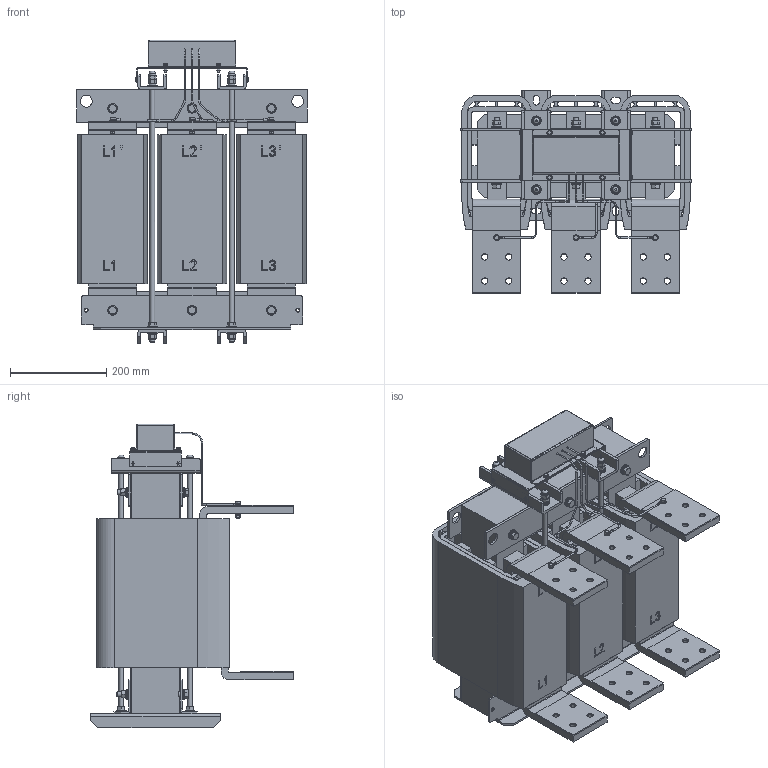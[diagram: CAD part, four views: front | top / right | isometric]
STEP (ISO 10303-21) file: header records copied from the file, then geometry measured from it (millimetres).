
FILE_DESCRIPTION(('STEP AP203'), '1');
FILE_NAME('IDUDT-1200_2300-4 _ dU_dt ôèëüòð 1200 êÂò', '', ('UNSPECIFIED'), ('UNSPECIFIED'), 'C3D Converter', 'C3D Toolkit', '');
FILE_SCHEMA(('CONFIG_CONTROL_DESIGN'));
Length unit declared in the file: millimetre
Products named in the file (1): IDUDT-1200/2300-4
Bounding box: 480 x 421.5 x 632 mm (x, y, z)
Volume: 39632507 mm3; surface area: 6194826.5 mm2
Topology: 198 solids, 198 shells, 2125 faces, 4770 edges, 3075 vertices
Faces by surface type: plane 1344, cylinder 479, cone 224, bspline 59, torus 19
Full cylindrical faces by diameter (mm): 3 x22, 4 x4, 5 x4, 5.053 x3, 5.417 x4, 5.558 x3, 6 x3, 6.45 x3, 6.5 x8, 7 x3, 8 x4, 8.422 x22, 9.55 x3, 10 x14, 10.75 x14, 10.833 x36, 11 x2, 12 x6, 13 x48, 15.917 x14, 20 x36, 25 x4
Entity records: 101776 total; most frequent: CARTESIAN_POINT 37810, DIRECTION 8922, ORIENTED_EDGE 8734, EDGE_CURVE 4367, AXIS2_PLACEMENT_3D 3320, VERTEX_POINT 3075, EDGE_LOOP 2854, COLOUR_RGB 2323
